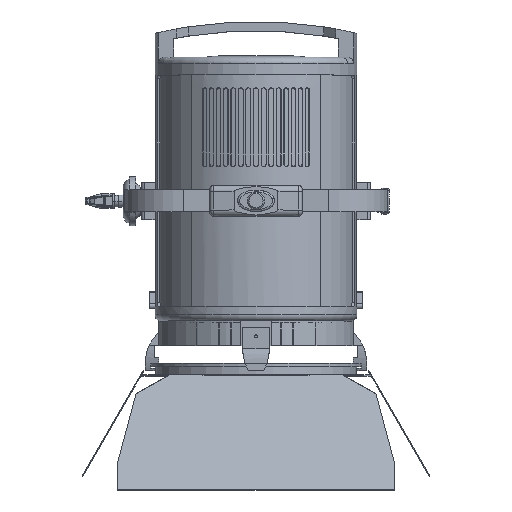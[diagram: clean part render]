
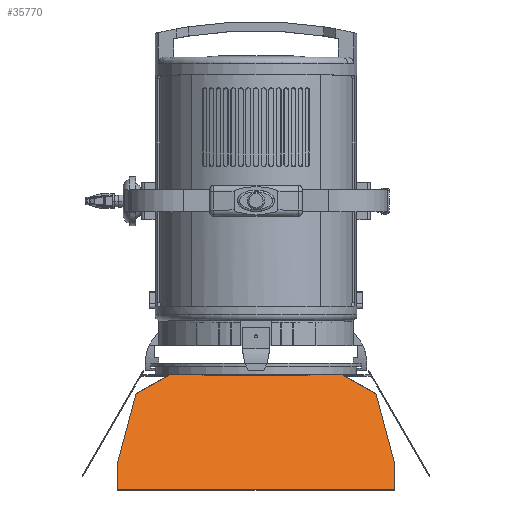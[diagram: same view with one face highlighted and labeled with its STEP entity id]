
A CAD part, top view. The second image highlights one B-rep face of the part: STEP entity #35770.
In plain terms, the highlighted planar face has unit normal (0, 0.5, 0.866) as drawn and (0, 0.866, -0.5) by its records, which use the part's own axes.
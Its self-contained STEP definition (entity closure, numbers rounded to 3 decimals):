
#163 = CARTESIAN_POINT ( 'NONE',  ( -195., 205., 48.811 ) ) ;
#492 = EDGE_CURVE ( 'NONE', #42799, #3338, #1987, .T. ) ;
#562 = EDGE_CURVE ( 'NONE', #13225, #16953, #3592, .T. ) ;
#785 = EDGE_CURVE ( 'NONE', #3338, #23935, #25985, .T. ) ;
#834 = EDGE_CURVE ( 'NONE', #23935, #9035, #15857, .T. ) ;
#909 = EDGE_CURVE ( 'NONE', #9035, #4508, #13735, .T. ) ;
#1032 = EDGE_CURVE ( 'NONE', #4508, #3115, #16359, .T. ) ;
#1098 = EDGE_CURVE ( 'NONE', #3115, #21905, #10988, .T. ) ;
#1175 = EDGE_CURVE ( 'NONE', #21905, #33237, #36433, .T. ) ;
#1235 = EDGE_CURVE ( 'NONE', #33237, #13225, #30469, .T. ) ;
#1357 = VECTOR ( 'NONE', #20348, 1000. ) ;
#1987 = LINE ( 'NONE', #39197, #10005 ) ;
#2049 = CARTESIAN_POINT ( 'NONE',  ( -195., 205., 48.811 ) ) ;
#2307 = ORIENTED_EDGE ( 'NONE', *, *, #909, .F. ) ;
#2651 = ORIENTED_EDGE ( 'NONE', *, *, #41875, .T. ) ;
#3115 = VERTEX_POINT ( 'NONE', #30744 ) ;
#3338 = VERTEX_POINT ( 'NONE', #22473 ) ;
#3592 = LINE ( 'NONE', #30088, #16966 ) ;
#4347 = CARTESIAN_POINT ( 'NONE',  ( 0., 132.614, -76.565 ) ) ;
#4504 = CARTESIAN_POINT ( 'NONE',  ( 140., 187.5, 18.5 ) ) ;
#4508 = VERTEX_POINT ( 'NONE', #18146 ) ;
#7002 = DIRECTION ( 'NONE',  ( 0., -0.5, -0.866 ) ) ;
#7899 = DIRECTION ( 'NONE',  ( 0.844, 0.268, 0.465 ) ) ;
#8539 = ORIENTED_EDGE ( 'NONE', *, *, #785, .F. ) ;
#8697 = ORIENTED_EDGE ( 'NONE', *, *, #834, .F. ) ;
#9035 = VERTEX_POINT ( 'NONE', #32148 ) ;
#10005 = VECTOR ( 'NONE', #16197, 1000. ) ;
#10988 = LINE ( 'NONE', #27380, #28965 ) ;
#11206 = PLANE ( 'NONE',  #37752 ) ;
#13084 = EDGE_LOOP ( 'NONE', ( #8539, #41155, #2651, #33955, #29681, #33031, #28245, #34399, #2307, #8697 ) ) ;
#13225 = VERTEX_POINT ( 'NONE', #32022 ) ;
#13735 = LINE ( 'NONE', #35173, #30509 ) ;
#14092 = CARTESIAN_POINT ( 'NONE',  ( -140., 187.5, 18.5 ) ) ;
#14373 = DIRECTION ( 'NONE',  ( 0.844, -0.268, -0.465 ) ) ;
#14779 = VECTOR ( 'NONE', #25282, 1000. ) ;
#14958 = CARTESIAN_POINT ( 'NONE',  ( 195., 205., 48.811 ) ) ;
#15857 = LINE ( 'NONE', #14958, #14779 ) ;
#16197 = DIRECTION ( 'NONE',  ( 1., 0., 0. ) ) ;
#16359 = LINE ( 'NONE', #39592, #33925 ) ;
#16854 = CARTESIAN_POINT ( 'NONE',  ( -82.878, 187.5, 18.5 ) ) ;
#16890 = VECTOR ( 'NONE', #20888, 1000. ) ;
#16930 = VECTOR ( 'NONE', #7899, 1000. ) ;
#16953 = VERTEX_POINT ( 'NONE', #18000 ) ;
#16966 = VECTOR ( 'NONE', #33251, 1000. ) ;
#18000 = CARTESIAN_POINT ( 'NONE',  ( -82.878, 187.5, 18.5 ) ) ;
#18119 = DIRECTION ( 'NONE',  ( 0., -0.866, 0.5 ) ) ;
#18146 = CARTESIAN_POINT ( 'NONE',  ( 225., 295., 204.695 ) ) ;
#20348 = DIRECTION ( 'NONE',  ( -1., 0., 0. ) ) ;
#20710 = LINE ( 'NONE', #16854, #1357 ) ;
#20888 = DIRECTION ( 'NONE',  ( 0.225, -0.487, -0.844 ) ) ;
#21905 = VERTEX_POINT ( 'NONE', #33270 ) ;
#22374 = DIRECTION ( 'NONE',  ( 0., 0.5, 0.866 ) ) ;
#22473 = CARTESIAN_POINT ( 'NONE',  ( 140., 187.5, 18.5 ) ) ;
#23935 = VERTEX_POINT ( 'NONE', #31607 ) ;
#25172 = FACE_OUTER_BOUND ( 'NONE', #13084, .T. ) ;
#25282 = DIRECTION ( 'NONE',  ( 0.225, 0.487, 0.844 ) ) ;
#25985 = LINE ( 'NONE', #4504, #16930 ) ;
#27380 = CARTESIAN_POINT ( 'NONE',  ( -225., 270., 161.394 ) ) ;
#28245 = ORIENTED_EDGE ( 'NONE', *, *, #1098, .F. ) ;
#28965 = VECTOR ( 'NONE', #7002, 1000. ) ;
#29213 = CARTESIAN_POINT ( 'NONE',  ( 82.878, 187.5, 18.5 ) ) ;
#29681 = ORIENTED_EDGE ( 'NONE', *, *, #1235, .F. ) ;
#30088 = CARTESIAN_POINT ( 'NONE',  ( 140., 187.5, 18.5 ) ) ;
#30469 = LINE ( 'NONE', #14092, #37962 ) ;
#30509 = VECTOR ( 'NONE', #22374, 1000. ) ;
#30744 = CARTESIAN_POINT ( 'NONE',  ( -225., 295., 204.695 ) ) ;
#31607 = CARTESIAN_POINT ( 'NONE',  ( 195., 205., 48.811 ) ) ;
#32022 = CARTESIAN_POINT ( 'NONE',  ( -140., 187.5, 18.5 ) ) ;
#32148 = CARTESIAN_POINT ( 'NONE',  ( 225., 270., 161.394 ) ) ;
#33031 = ORIENTED_EDGE ( 'NONE', *, *, #1175, .F. ) ;
#33218 = DIRECTION ( 'NONE',  ( -1., 0., 0. ) ) ;
#33237 = VERTEX_POINT ( 'NONE', #2049 ) ;
#33251 = DIRECTION ( 'NONE',  ( 1., 0., 0. ) ) ;
#33270 = CARTESIAN_POINT ( 'NONE',  ( -225., 270., 161.394 ) ) ;
#33925 = VECTOR ( 'NONE', #33218, 1000. ) ;
#33955 = ORIENTED_EDGE ( 'NONE', *, *, #562, .F. ) ;
#34399 = ORIENTED_EDGE ( 'NONE', *, *, #1032, .F. ) ;
#35173 = CARTESIAN_POINT ( 'NONE',  ( 225., 270., 161.394 ) ) ;
#35770 = ADVANCED_FACE ( 'NONE', ( #25172 ), #11206, .F. ) ;
#36433 = LINE ( 'NONE', #163, #16890 ) ;
#37752 = AXIS2_PLACEMENT_3D ( 'NONE', #4347, #18119, #41015 ) ;
#37962 = VECTOR ( 'NONE', #14373, 1000. ) ;
#39197 = CARTESIAN_POINT ( 'NONE',  ( 140., 187.5, 18.5 ) ) ;
#39592 = CARTESIAN_POINT ( 'NONE',  ( -225., 295., 204.695 ) ) ;
#41015 = DIRECTION ( 'NONE',  ( 0., -0.5, -0.866 ) ) ;
#41155 = ORIENTED_EDGE ( 'NONE', *, *, #492, .F. ) ;
#41875 = EDGE_CURVE ( 'NONE', #42799, #16953, #20710, .T. ) ;
#42799 = VERTEX_POINT ( 'NONE', #29213 ) ;
